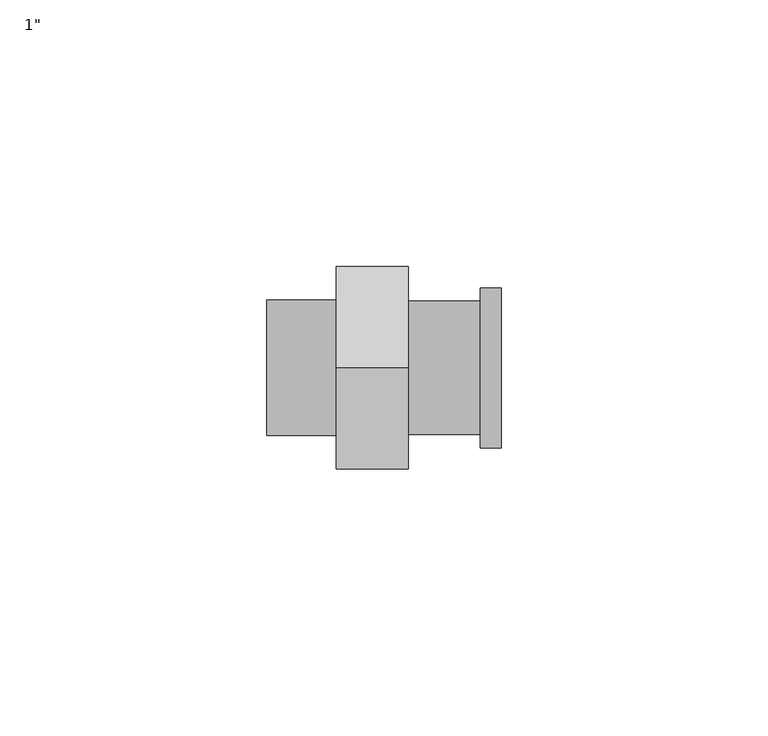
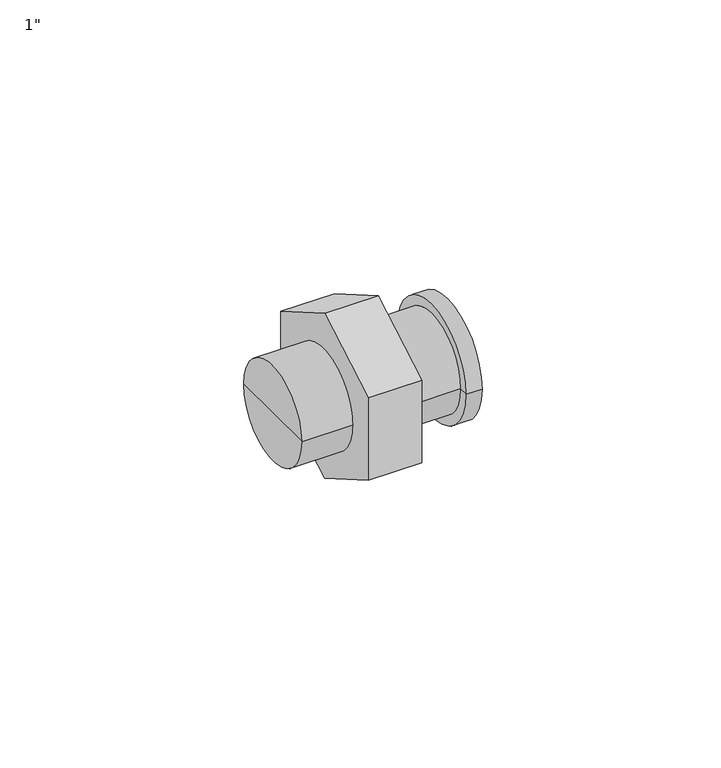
"""IFC4 building model written with IfcOpenShell, lengths in millimetres: pipe fitting geometry."""

from ifc_helpers import new_model, si_unit, frame, origin, place, context, project, spatial, polyline, circle_curve, outline, extrude, source, transform, mapped, element, save
from ifc_brep_helpers import plane_surface, cylinder_surface, advanced_brep


def pipe_fitting_8a5fa116(model_context):
    return source(origin(), model_context, "Body", "SolidModel", [
        extrude(outline(polyline([(0.0, -21.9393102), (-19.0, -10.9696551), (-19.0, 10.9696551), (0.0, 21.9393102), (19.0, 10.9696551), (19.0, -10.9696551), (0.0, -21.9393102)])), frame((0.0, 0.0, 0.0), z_axis=(1.0, 0.0, 0.0), x_axis=(0.0, 1.0, 0.0)), (0.0, 0.0, 1.0), 13.5),
        advanced_brep(
        [(31.0, -15.0, 0.0), (31.0, 15.0, 0.0), (31.0, 0.0, 0.0), (13.5, -12.5, 0.0), (13.5, 12.5, 0.0), (27.0, 12.5, 0.0), (27.0, -12.5, 0.0), (13.5, 0.0, 0.0), (27.0, -15.0, 0.0), (27.0, 15.0, 0.0)],
        [
            (0, 1, circle_curve(frame((31.0, 0.0, 0.0), z_axis=(1.0, 0.0, 0.0), x_axis=(0.0, 1.0, 0.0)), 15.0)),
            (1, 2),
            (2, 0),
            (1, 0, circle_curve(frame((31.0, 0.0, 0.0), z_axis=(1.0, 0.0, 0.0), x_axis=(0.0, 1.0, 0.0)), 15.0)),
            (3, 4, circle_curve(frame((13.5, 0.0, 0.0), z_axis=(1.0, 0.0, 0.0), x_axis=(0.0, 1.0, 0.0)), 12.5)),
            (4, 5),
            (5, 6, circle_curve(frame((27.0, 0.0, 0.0), z_axis=(-1.0, 0.0, 0.0), x_axis=(0.0, 1.0, 0.0)), 12.5)),
            (6, 3),
            (4, 3, circle_curve(frame((13.5, 0.0, 0.0), z_axis=(1.0, 0.0, 0.0), x_axis=(0.0, 1.0, 0.0)), 12.5)),
            (6, 5, circle_curve(frame((27.0, 0.0, 0.0), z_axis=(-1.0, 0.0, 0.0), x_axis=(0.0, 1.0, 0.0)), 12.5)),
            (7, 4),
            (3, 7),
            (8, 9, circle_curve(frame((27.0, 0.0, 0.0), z_axis=(1.0, 0.0, 0.0), x_axis=(0.0, 1.0, 0.0)), 15.0)),
            (9, 1),
            (0, 8),
            (9, 8, circle_curve(frame((27.0, 0.0, 0.0), z_axis=(1.0, 0.0, 0.0), x_axis=(0.0, 1.0, 0.0)), 15.0)),
            (5, 9),
            (8, 6),
        ],
        [
            plane_surface(frame((31.0, 0.0, 0.0), z_axis=(1.0, 0.0, 0.0), x_axis=(0.0, 1.0, 0.0))),
            cylinder_surface(frame((2015.0, 0.0, 0.0), z_axis=(-1.0, 0.0, 0.0), x_axis=(0.0, 1.0, 0.0)), 12.5),
            plane_surface(frame((13.5, 0.0, 0.0), z_axis=(-1.0, 0.0, 0.0), x_axis=(0.0, 1.0, 0.0))),
            cylinder_surface(frame((2015.0, 0.0, 0.0), z_axis=(-1.0, 0.0, 0.0), x_axis=(0.0, 1.0, 0.0)), 15.0),
            plane_surface(frame((27.0, 0.0, 0.0), z_axis=(-1.0, 0.0, 0.0), x_axis=(0.0, 1.0, 0.0))),
        ],
        [
            (0, [[1, 2, 3]]),
            (0, [[4, -3, -2]]),
            (1, [[5, 6, 7, 8]]),
            (1, [[9, -8, 10, -6]]),
            (2, [[11, -5, 12]]),
            (2, [[-12, -9, -11]]),
            (3, [[13, 14, -1, 15]]),
            (3, [[16, -15, -4, -14]]),
            (4, [[-7, 17, -13, 18]]),
            (4, [[-10, -18, -16, -17]]),
        ],
    ),
        advanced_brep(
        [(0.0, -12.7, 0.0), (0.0, 12.7, 0.0), (0.0, 0.0, 0.0), (-13.0, -12.7, 0.0), (-13.0, 12.7, 0.0), (-13.0, 0.0, 0.0)],
        [
            (0, 1, circle_curve(frame((0.0, 0.0, 0.0), z_axis=(1.0, 0.0, 0.0), x_axis=(0.0, 1.0, 0.0)), 12.7)),
            (1, 2),
            (2, 0),
            (1, 0, circle_curve(frame((0.0, 0.0, 0.0), z_axis=(1.0, 0.0, 0.0), x_axis=(0.0, 1.0, 0.0)), 12.7)),
            (3, 4, circle_curve(frame((-13.0, 0.0, 0.0), z_axis=(1.0, 0.0, 0.0), x_axis=(0.0, 1.0, 0.0)), 12.7)),
            (4, 1),
            (0, 3),
            (4, 3, circle_curve(frame((-13.0, 0.0, 0.0), z_axis=(1.0, 0.0, 0.0), x_axis=(0.0, 1.0, 0.0)), 12.7)),
            (5, 4),
            (3, 5),
        ],
        [
            plane_surface(frame((0.0, 0.0, 0.0), z_axis=(1.0, 0.0, 0.0), x_axis=(0.0, 1.0, 0.0))),
            cylinder_surface(frame((2015.0, 0.0, 0.0), z_axis=(-1.0, 0.0, 0.0), x_axis=(0.0, 1.0, 0.0)), 12.7),
            plane_surface(frame((-13.0, 0.0, 0.0), z_axis=(-1.0, 0.0, 0.0), x_axis=(0.0, 1.0, 0.0))),
        ],
        [
            (0, [[1, 2, 3]]),
            (0, [[4, -3, -2]]),
            (1, [[5, 6, -1, 7]]),
            (1, [[8, -7, -4, -6]]),
            (2, [[9, -5, 10]]),
            (2, [[-10, -8, -9]]),
        ],
    ),
    ])


if __name__ == "__main__":
    model = new_model("IFC4")
    model_context = context("Model", 3, world=origin())
    ifc_project = project(units=[si_unit("LENGTHUNIT", "METRE", prefix="MILLI")], contexts=[model_context])
    site = spatial("IfcSite", under=ifc_project)
    building = spatial("IfcBuilding", under=site)
    placement = place(None, origin())
    pipe_fitting_shape = pipe_fitting_8a5fa116(model_context)
    element("IfcPipeFitting", 1, ObjectType="KAN-therm Push złączka mosiężna z gz : 1\"", at=placement, inside=building, context=model_context, shape_type="MappedRepresentation", body=[
        mapped(pipe_fitting_shape, transform((0.0, 0.0, 0.0), x_axis=(1.0, 0.0, 0.0), y_axis=(0.0, 1.0, 0.0), z_axis=(0.0, 0.0, 1.0))),
    ])
    save(model, "model.ifc")
